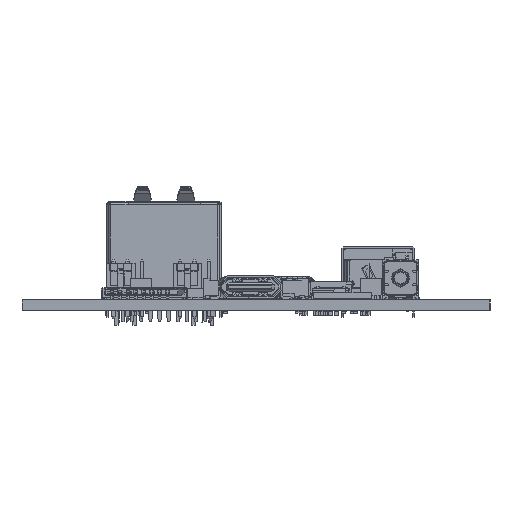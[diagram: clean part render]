
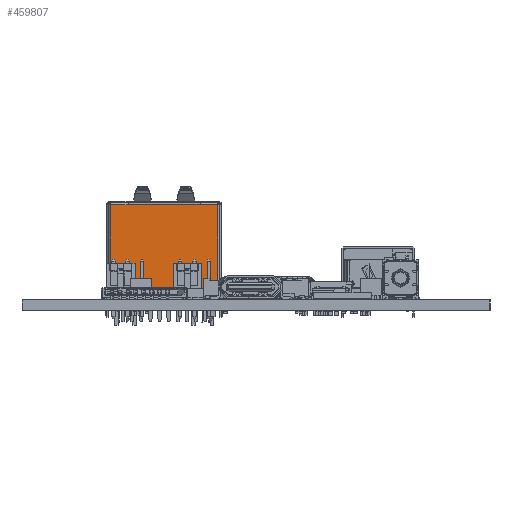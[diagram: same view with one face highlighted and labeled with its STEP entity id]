
A CAD part, left-side view. The second image highlights one B-rep face of the part: STEP entity #459807.
In plain terms, the highlighted free-form (B-spline) face has degree [1, 1] with [2, 2] control points.
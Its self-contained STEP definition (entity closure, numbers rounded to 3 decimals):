
#459807 = ADVANCED_FACE('',(#459808),#459852,.T.);
#459808 = FACE_BOUND('',#459809,.T.);
#459809 = EDGE_LOOP('',(#459810,#459819,#459826,#459833,#459840,#459847)
  );
#459810 = ORIENTED_EDGE('',*,*,#459811,.F.);
#459811 = EDGE_CURVE('',#459812,#459814,#459816,.T.);
#459812 = VERTEX_POINT('',#459813);
#459813 = CARTESIAN_POINT('',(7.786,-4.875,
    -21.2));
#459814 = VERTEX_POINT('',#459815);
#459815 = CARTESIAN_POINT('',(7.786,6.925,
    -21.2));
#459816 = B_SPLINE_CURVE_WITH_KNOTS('',1,(#459817,#459818),
  .UNSPECIFIED.,.F.,.F.,(2,2),(0.,1.),.PIECEWISE_BEZIER_KNOTS.);
#459817 = CARTESIAN_POINT('',(7.786,-4.875,
    -21.2));
#459818 = CARTESIAN_POINT('',(7.786,6.925,
    -21.2));
#459819 = ORIENTED_EDGE('',*,*,#459820,.F.);
#459820 = EDGE_CURVE('',#459821,#459812,#459823,.T.);
#459821 = VERTEX_POINT('',#459822);
#459822 = CARTESIAN_POINT('',(-7.164,-4.875,
    -21.2));
#459823 = B_SPLINE_CURVE_WITH_KNOTS('',1,(#459824,#459825),
  .UNSPECIFIED.,.F.,.F.,(2,2),(0.,1.),.PIECEWISE_BEZIER_KNOTS.);
#459824 = CARTESIAN_POINT('',(-7.164,-4.875,
    -21.2));
#459825 = CARTESIAN_POINT('',(7.786,-4.875,
    -21.2));
#459826 = ORIENTED_EDGE('',*,*,#459827,.F.);
#459827 = EDGE_CURVE('',#459828,#459821,#459830,.T.);
#459828 = VERTEX_POINT('',#459829);
#459829 = CARTESIAN_POINT('',(-7.164,6.925,
    -21.2));
#459830 = B_SPLINE_CURVE_WITH_KNOTS('',1,(#459831,#459832),
  .UNSPECIFIED.,.F.,.F.,(2,2),(0.,1.),.PIECEWISE_BEZIER_KNOTS.);
#459831 = CARTESIAN_POINT('',(-7.164,6.925,
    -21.2));
#459832 = CARTESIAN_POINT('',(-7.164,-4.875,
    -21.2));
#459833 = ORIENTED_EDGE('',*,*,#459834,.F.);
#459834 = EDGE_CURVE('',#459835,#459828,#459837,.T.);
#459835 = VERTEX_POINT('',#459836);
#459836 = CARTESIAN_POINT('',(-4.689,6.925,
    -21.2));
#459837 = B_SPLINE_CURVE_WITH_KNOTS('',1,(#459838,#459839),
  .UNSPECIFIED.,.F.,.F.,(2,2),(0.,1.),.PIECEWISE_BEZIER_KNOTS.);
#459838 = CARTESIAN_POINT('',(-4.689,6.925,
    -21.2));
#459839 = CARTESIAN_POINT('',(-7.164,6.925,
    -21.2));
#459840 = ORIENTED_EDGE('',*,*,#459841,.F.);
#459841 = EDGE_CURVE('',#459842,#459835,#459844,.T.);
#459842 = VERTEX_POINT('',#459843);
#459843 = CARTESIAN_POINT('',(5.311,6.925,
    -21.2));
#459844 = B_SPLINE_CURVE_WITH_KNOTS('',1,(#459845,#459846),
  .UNSPECIFIED.,.F.,.F.,(2,2),(0.,1.),.PIECEWISE_BEZIER_KNOTS.);
#459845 = CARTESIAN_POINT('',(5.311,6.925,
    -21.2));
#459846 = CARTESIAN_POINT('',(-4.689,6.925,
    -21.2));
#459847 = ORIENTED_EDGE('',*,*,#459848,.F.);
#459848 = EDGE_CURVE('',#459814,#459842,#459849,.T.);
#459849 = B_SPLINE_CURVE_WITH_KNOTS('',1,(#459850,#459851),
  .UNSPECIFIED.,.F.,.F.,(2,2),(0.,1.),.PIECEWISE_BEZIER_KNOTS.);
#459850 = CARTESIAN_POINT('',(7.786,6.925,
    -21.2));
#459851 = CARTESIAN_POINT('',(5.311,6.925,
    -21.2));
#459852 = B_SPLINE_SURFACE_WITH_KNOTS('',1,1,(
    (#459853,#459854)
    ,(#459855,#459856
    )),.UNSPECIFIED.,.F.,.F.,.F.,(2,2),(2,2),(-0.589,0.),(
    -0.465,0.),.PIECEWISE_BEZIER_KNOTS.);
#459853 = CARTESIAN_POINT('',(7.786,-4.875,
    -21.2));
#459854 = CARTESIAN_POINT('',(7.786,6.925,
    -21.2));
#459855 = CARTESIAN_POINT('',(-7.164,-4.875,
    -21.2));
#459856 = CARTESIAN_POINT('',(-7.164,6.925,
    -21.2));
